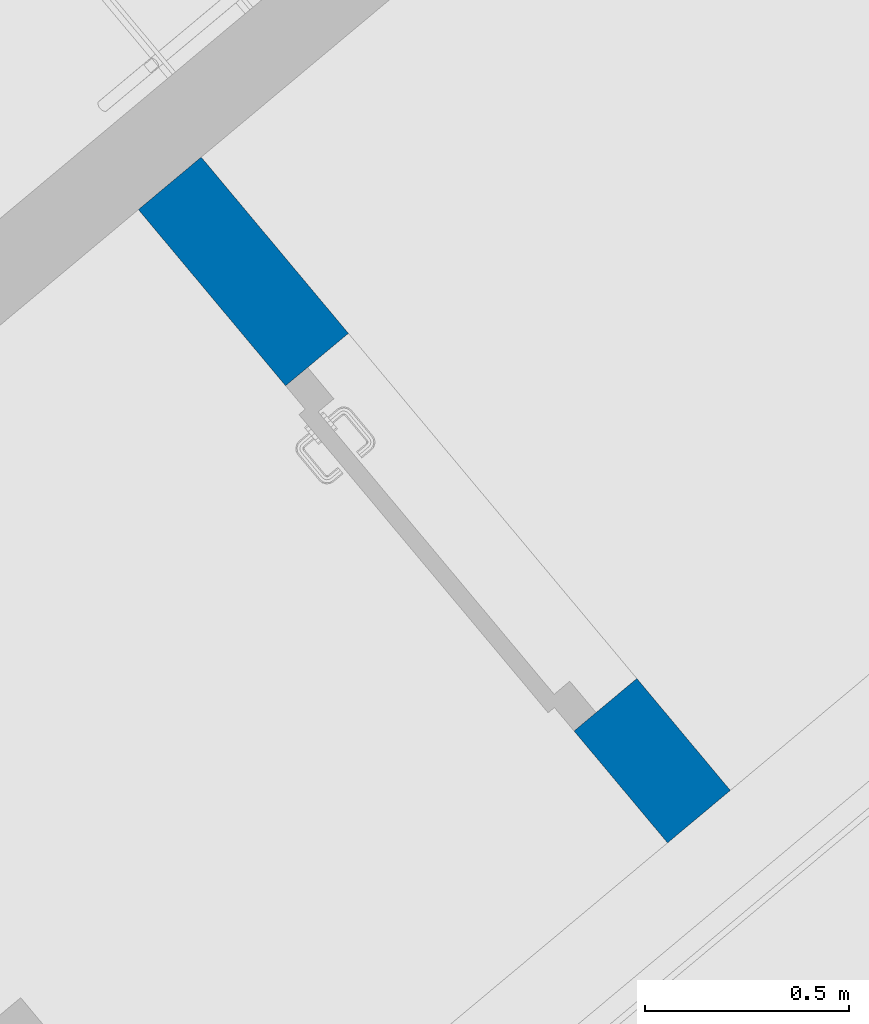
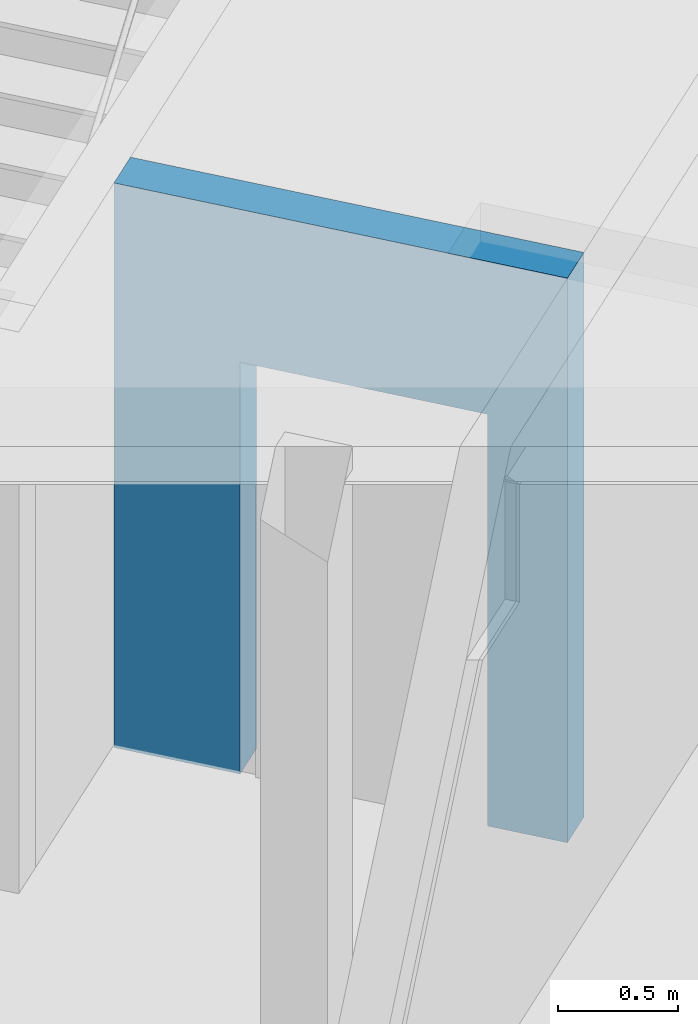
# One storey, part 1 of 17: 1 wall, 1 opening.
"""IFC4 building model written with IfcOpenShell, lengths in metres."""

from ifc_helpers import new_model, entity, si_unit, converted_unit, derived_unit, direction, frame, origin_with_axes, place, context, subcontext, project, spatial, polygons, material, type_object, element, save


model = new_model("IFC4")

# Units and contexts
model_context = context("Model", 3, precision=1e-05, world=origin_with_axes(), true_north=direction((0.0, 1.0)))
body_context = subcontext(model_context, "Body", "Model", "MODEL_VIEW")
ifc_project = project(units=[si_unit("LENGTHUNIT", "METRE"), si_unit("AREAUNIT", "SQUARE_METRE"), si_unit("VOLUMEUNIT", "CUBIC_METRE"), converted_unit("PLANEANGLEUNIT", "DEGREE", entity("IfcPlaneAngleMeasure", 0.0174532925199), si_unit("PLANEANGLEUNIT", "RADIAN"), dimensions=[0, 0, 0, 0, 0, 0, 0]), converted_unit("TIMEUNIT", "Year", entity("IfcTimeMeasure", 31556926.0), si_unit("TIMEUNIT", "SECOND"), dimensions=[0, 0, 1, 0, 0, 0, 0]), si_unit("MASSUNIT", "GRAM", prefix="KILO"), si_unit("THERMODYNAMICTEMPERATUREUNIT", "DEGREE_CELSIUS"), si_unit("LUMINOUSINTENSITYUNIT", "LUMEN"), si_unit("ENERGYUNIT", "JOULE", prefix="MEGA"), derived_unit("THERMALCONDUCTANCEUNIT", [(si_unit("POWERUNIT", "WATT"), 1), (si_unit("LENGTHUNIT", "METRE"), -1), (si_unit("THERMODYNAMICTEMPERATUREUNIT", "KELVIN"), -1)]), derived_unit("SPECIFICHEATCAPACITYUNIT", [(si_unit("ENERGYUNIT", "JOULE"), 1), (si_unit("MASSUNIT", "GRAM", prefix="KILO"), -1), (si_unit("THERMODYNAMICTEMPERATUREUNIT", "KELVIN"), -1)]), derived_unit("MASSDENSITYUNIT", [(si_unit("MASSUNIT", "GRAM", prefix="KILO"), 1), (si_unit("VOLUMEUNIT", "CUBIC_METRE"), -1)])], contexts=[model_context])

# Site, building, storey
site_placement = place(None, frame((-0.00153261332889, -0.00661245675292, 0.0), z_axis=(0.0, 0.0, 1.0), x_axis=(1.0, 0.0, 0.0)))
site = spatial("IfcSite", under=ifc_project, at=site_placement, Name="Site", CompositionType="ELEMENT")
building_placement = place(site_placement, origin_with_axes())
building = spatial("IfcBuilding", under=site, at=building_placement, Name="Building", CompositionType="ELEMENT")
storey_placement = place(building_placement, frame((0.0, 0.0, -3.3), z_axis=(0.0, 0.0, 1.0), x_axis=(1.0, 0.0, 0.0)))
storey = spatial("IfcBuildingStorey", under=building, at=storey_placement, Name="UG1", CompositionType="ELEMENT", Elevation=-3.3)

# Wall, opening
ifc_material = material(Name="Stahlbeton Wand")
wall_type = type_object("IfcWallType", Name="Stahlbeton Wand 200", PredefinedType="NOTDEFINED")
wall_placement = place(storey_placement, frame((0.119192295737, 19.6059604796, 0.0), z_axis=(0.0, 0.0, 1.0), x_axis=(-0.641209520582, 0.767365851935, 0.0)))
wall = element("IfcWall", 1, at=wall_placement, inside=storey, type_object=wall_type, material=ifc_material, Name="Wand-008", PredefinedType="NOTDEFINED", context=body_context, shape_type="Tessellation", body=[
    polygons([(1.45641828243, 0.0, 2.1), (1.45641828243, 0.0, 0.015), (1.45641828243, 0.0, 0.0), (2.01779808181, 0.0, 0.0), (2.01779808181, 0.0, 2.88), (0.0, 0.0, 2.88), (0.0, 0.0, 0.0), (0.356418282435, 0.0, 0.0), (0.356418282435, 0.0, 0.015), (0.356418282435, 0.0, 2.1), (1.45641828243, 0.2, 2.1), (1.45641828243, 0.2, 0.015), (1.45641828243, 0.2, 0.0), (2.01779808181, 0.2, 0.0), (2.01779808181, 0.2, 2.88), (0.0, 0.2, 2.88), (0.0, 0.2, 0.0), (0.356418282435, 0.2, 0.0), (0.356418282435, 0.2, 0.015), (0.356418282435, 0.2, 2.1)], [[[1, 2, 3, 4, 5, 6, 7, 8, 9, 10]], [[2, 1, 11, 12]], [[2, 12, 13, 3]], [[3, 13, 14, 4]], [[4, 14, 15, 5]], [[5, 15, 16, 6]], [[16, 17, 7, 6]], [[18, 8, 7, 17]], [[19, 9, 8, 18]], [[10, 9, 19, 20]], [[1, 10, 20, 11]], [[20, 19, 18, 17, 16, 15, 14, 13, 12, 11]]], closed=True),
])
opening_placement = place(wall_placement, frame((0.906418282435, 0.0, 0.0), z_axis=(0.0, 0.0, 1.0), x_axis=(1.0, 0.0, 0.0)))
element("IfcOpeningElement", 2, at=opening_placement, cuts=wall, Name="Tür-002", context=body_context, identifier="Reference", shape_type="Tessellation", body=[
    polygons([(-0.55, -0.993841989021, 2.1), (-0.55, -0.993841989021, 0.0), (0.55, -0.993841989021, 0.0), (0.55, -0.993841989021, 2.1), (-0.55, 1.19384198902, 2.1), (-0.55, 1.19384198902, 0.0), (0.55, 1.19384198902, 0.0), (0.55, 1.19384198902, 2.1)], [[[1, 2, 3, 4]], [[5, 6, 2, 1]], [[6, 7, 3, 2]], [[7, 8, 4, 3]], [[8, 5, 1, 4]], [[7, 6, 5, 8]]], closed=True),
])

save(model, "model.ifc")
